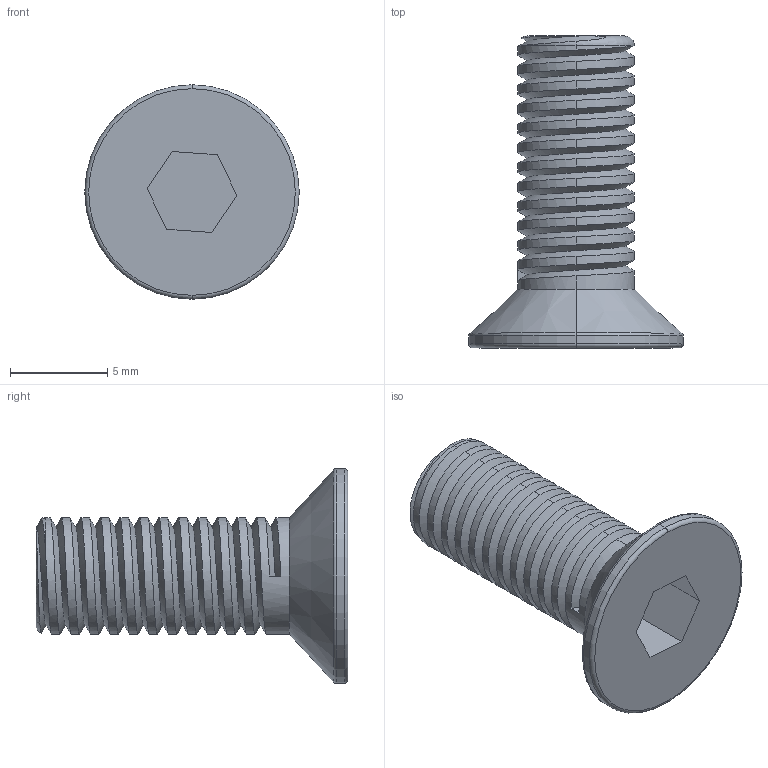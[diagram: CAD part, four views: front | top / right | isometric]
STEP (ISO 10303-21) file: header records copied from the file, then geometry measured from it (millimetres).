
FILE_DESCRIPTION (( 'STEP AP203' ), '1' );
FILE_NAME ('145-CE-FLB-6.STEP', '2015-07-09T09:03:43', ( '' ), ( '' ), 'SwSTEP 2.0', 'SolidWorks 2013', '' );
FILE_SCHEMA (( 'CONFIG_CONTROL_DESIGN' ));
Length unit declared in the file: millimetre
Products named in the file (1): 145-CE-FLB-6
Bounding box: 11 x 16 x 11 mm (x, y, z)
Volume: 494.3 mm3; surface area: 626.7 mm2
Topology: 1 solids, 1 shells, 49 faces, 127 edges, 81 vertices
Faces by surface type: cylinder 27, plane 10, torus 8, cone 2, bspline 2
Entity records: 2919 total; most frequent: CARTESIAN_POINT 1797, ORIENTED_EDGE 254, DIRECTION 188, EDGE_CURVE 127, VERTEX_POINT 81, AXIS2_PLACEMENT_3D 70, EDGE_LOOP 50, FACE_OUTER_BOUND 49
